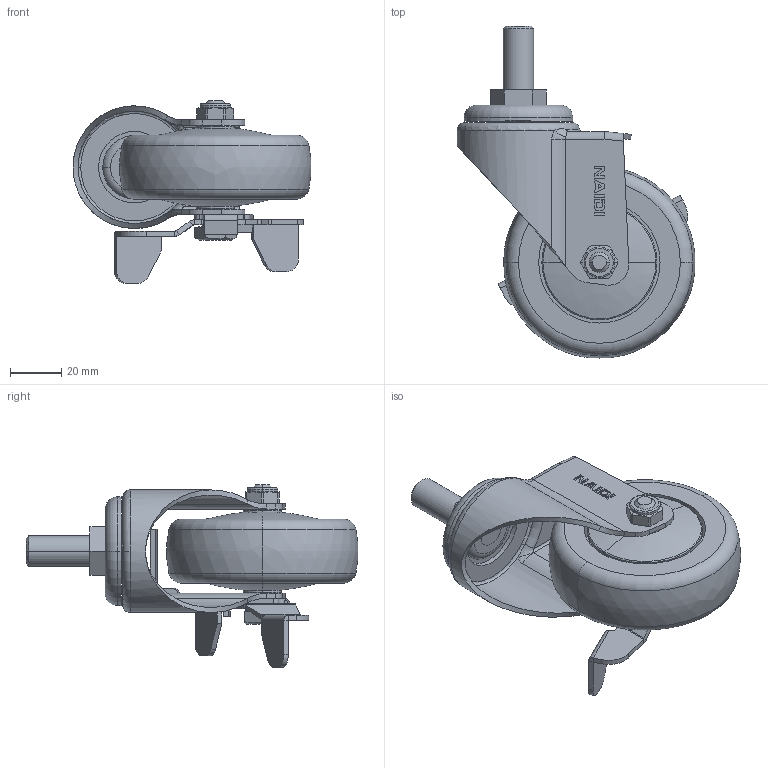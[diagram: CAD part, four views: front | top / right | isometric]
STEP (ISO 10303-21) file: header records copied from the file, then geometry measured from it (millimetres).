
FILE_DESCRIPTION((''),'2;1');
FILE_NAME('C34143C_ASM','2024-09-26T',('Lenovo'),(''),'PRO/ENGINEER BY PARAMETRIC TECHNOLOGY CORPORATION, 2010280','PRO/ENGINEER BY PARAMETRIC TECHNOLOGY CORPORATION, 2010280','');
FILE_SCHEMA(('CONFIG_CONTROL_DESIGN'));
Length unit declared in the file: millimetre
Products named in the file (10): C3413-311; 360-23-M12X25; C3410-211; C343-967; 373-69; 302-33; 300-34; 363-15; 300-14; C34143C_ASM
Assembly tree (10 placements, depth 2):
  C34143C_ASM
    C3413-311
    360-23-M12X25
    C3410-211
    C343-967
    373-69  x2
    302-33
    300-34
    363-15
    300-14
Bounding box: 93.1 x 129.9 x 71.4 mm (x, y, z)
Volume: 119708.1 mm3; surface area: 55341.9 mm2
Topology: 10 solids, 10 shells, 390 faces, 923 edges, 574 vertices
Faces by surface type: plane 185, cylinder 126, torus 36, bspline 25, cone 18
Entity records: 12354 total; most frequent: CARTESIAN_POINT 3689, DIRECTION 1810, ORIENTED_EDGE 1726, EDGE_CURVE 863, AXIS2_PLACEMENT_3D 654, VERTEX_POINT 540, VECTOR 502, LINE 502
